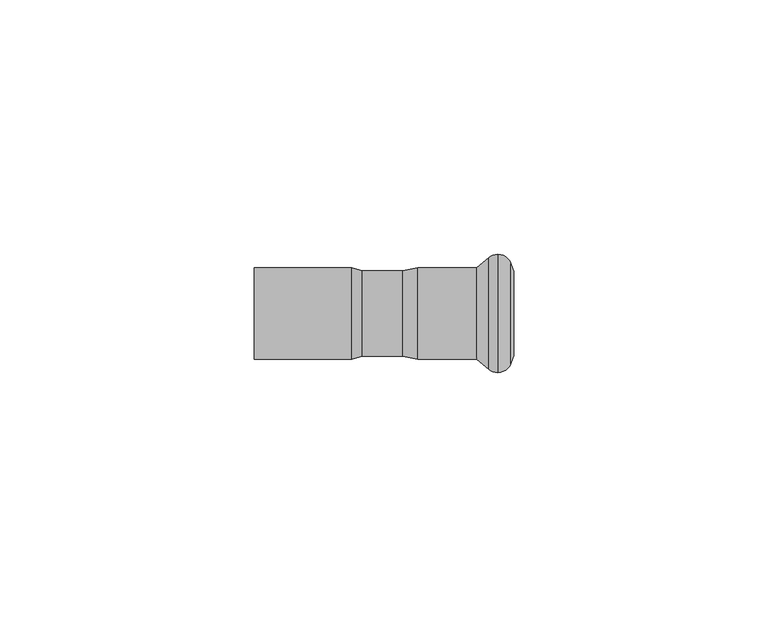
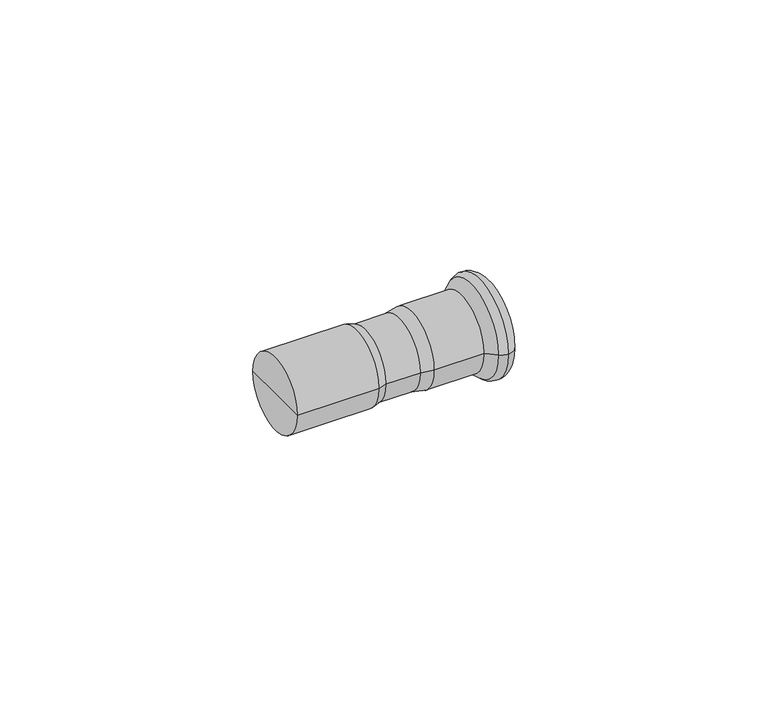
"""IFC4 building model written with IfcOpenShell, lengths in millimetres: pipe fitting geometry, KAN-therm Inox redukcja nyplowa : KAN-therm Inox redukcja nyplowa."""

from ifc_helpers import new_model, si_unit, point, frame, origin, place, context, project, spatial, polyline, circle_curve, ellipse_curve, trimmed, source, transform, mapped, element, save
from ifc_brep_helpers import plane_surface, cylinder_surface, revolved_surface, advanced_brep


def pipe_fitting_02114148(model_context):
    return source(origin(), model_context, "Body", "AdvancedBrep", [
        advanced_brep(
        [(46.0922627, -10.9370225, 0.0), (46.0922627, 10.9370225, 0.0), (47.8921278, 11.625, 0.0), (47.8921278, -11.625, 0.0), (43.7838092, -9.0, 0.0), (43.7838092, 9.0, 0.0), (32.1180407, -9.0, 0.0), (32.1180407, 9.0, 0.0), (29.2, -8.4, 0.0), (29.2, 8.4, 0.0), (21.2, -8.4, 0.0), (21.2, 8.4, 0.0), (51.0, -8.2880302, 0.0), (51.0, 8.2880302, 0.0), (51.0, 0.0, 0.0), (50.432052, -9.8484544, 0.0), (50.432052, 9.8484544, 0.0), (0.0, 0.0, 0.0), (0.0, 9.0, 0.0), (0.0, -9.0, 0.0), (19.2, -9.0, 0.0), (19.2, 9.0, 0.0)],
        [
            (0, 1, circle_curve(frame((46.0922627, 0.0, 0.0), z_axis=(1.0, 0.0, 0.0), x_axis=(0.0, 1.0, 0.0)), 10.9370225)),
            (1, 2, circle_curve(frame((47.8935049, 8.9230333, 0.0), z_axis=(0.0, 0.0, -1.0), x_axis=(1.0, 0.0, 0.0)), 2.701967)),
            (2, 3, circle_curve(frame((47.8921278, 0.0, 0.0), z_axis=(-1.0, 0.0, 0.0), x_axis=(0.0, 1.0, 0.0)), 11.625)),
            (3, 0, circle_curve(frame((47.8935049, -8.9230333, 0.0), z_axis=(0.0, 0.0, -1.0), x_axis=(1.0, 0.0, 0.0)), 2.701967)),
            (1, 0, circle_curve(frame((46.0922627, 0.0, 0.0), z_axis=(1.0, 0.0, 0.0), x_axis=(0.0, 1.0, 0.0)), 10.9370225)),
            (3, 2, circle_curve(frame((47.8921278, 0.0, 0.0), z_axis=(-1.0, 0.0, 0.0), x_axis=(0.0, 1.0, 0.0)), 11.625)),
            (4, 5, circle_curve(frame((43.7838092, 0.0, 0.0), z_axis=(1.0, 0.0, 0.0), x_axis=(0.0, 1.0, 0.0)), 9.0)),
            (5, 1),
            (0, 4),
            (5, 4, circle_curve(frame((43.7838092, 0.0, 0.0), z_axis=(1.0, 0.0, 0.0), x_axis=(0.0, 1.0, 0.0)), 9.0)),
            (6, 7, circle_curve(frame((32.1180407, 0.0, 0.0), z_axis=(1.0, 0.0, 0.0), x_axis=(0.0, 1.0, 0.0)), 9.0)),
            (7, 5),
            (4, 6),
            (7, 6, circle_curve(frame((32.1180407, 0.0, 0.0), z_axis=(1.0, 0.0, 0.0), x_axis=(0.0, 1.0, 0.0)), 9.0)),
            (8, 9, circle_curve(frame((29.2, 0.0, 0.0), z_axis=(1.0, 0.0, 0.0), x_axis=(0.0, 1.0, 0.0)), 8.4)),
            (9, 7),
            (6, 8),
            (9, 8, circle_curve(frame((29.2, 0.0, 0.0), z_axis=(1.0, 0.0, 0.0), x_axis=(0.0, 1.0, 0.0)), 8.4)),
            (10, 11, circle_curve(frame((21.2, 0.0, 0.0), z_axis=(1.0, 0.0, 0.0), x_axis=(0.0, 1.0, 0.0)), 8.4)),
            (11, 9),
            (8, 10),
            (11, 10, circle_curve(frame((21.2, 0.0, 0.0), z_axis=(1.0, 0.0, 0.0), x_axis=(0.0, 1.0, 0.0)), 8.4)),
            (12, 13, circle_curve(frame((51.0, 0.0, 0.0), z_axis=(1.0, 0.0, 0.0), x_axis=(0.0, 1.0, 0.0)), 8.2880302)),
            (13, 14),
            (14, 12),
            (13, 12, circle_curve(frame((51.0, 0.0, 0.0), z_axis=(1.0, 0.0, 0.0), x_axis=(0.0, 1.0, 0.0)), 8.2880302)),
            (15, 16, circle_curve(frame((50.432052, 0.0, 0.0), z_axis=(1.0, 0.0, 0.0), x_axis=(0.0, 1.0, 0.0)), 9.8484544)),
            (16, 13),
            (12, 15),
            (16, 15, circle_curve(frame((50.432052, 0.0, 0.0), z_axis=(1.0, 0.0, 0.0), x_axis=(0.0, 1.0, 0.0)), 9.8484544)),
            (2, 16, circle_curve(frame((47.89488, 8.9249993, 0.0), z_axis=(0.0, 0.0, -1.0), x_axis=(1.0, 0.0, 0.0)), 2.7000021)),
            (15, 3, circle_curve(frame((47.89488, -8.9249993, 0.0), z_axis=(0.0, 0.0, -1.0), x_axis=(1.0, 0.0, 0.0)), 2.7000021)),
            (17, 18),
            (18, 19, circle_curve(frame((0.0, 0.0, 0.0), z_axis=(-1.0, 0.0, 0.0), x_axis=(0.0, 1.0, 0.0)), 9.0)),
            (19, 17),
            (19, 18, circle_curve(frame((0.0, 0.0, 0.0), z_axis=(-1.0, 0.0, 0.0), x_axis=(0.0, 1.0, 0.0)), 9.0)),
            (20, 21, circle_curve(frame((19.2, 0.0, 0.0), z_axis=(1.0, 0.0, 0.0), x_axis=(0.0, 1.0, 0.0)), 9.0)),
            (21, 11),
            (10, 20),
            (21, 20, circle_curve(frame((19.2, 0.0, 0.0), z_axis=(1.0, 0.0, 0.0), x_axis=(0.0, 1.0, 0.0)), 9.0)),
            (18, 21),
            (20, 19),
        ],
        [
            revolved_surface(trimmed(ellipse_curve(frame((47.8935049, 8.9230333, 0.0), z_axis=(0.0, 0.0, 1.0), x_axis=(1.0, 0.0, 0.0)), 2.701967, 2.701967), [point((47.8921278, 11.625, 0.0))], [point((46.0922627, 10.9370225, 0.0))], True, "CARTESIAN"), (1364.742668, 0.0, 0.0), (-1.0, 0.0, 0.0)),
            revolved_surface(polyline([(46.0922627, 10.9370225, 0.0), (43.7838092, 9.0, 0.0)]), (1364.742668, 0.0, 0.0), (-1.0, 0.0, 0.0)),
            cylinder_surface(frame((1364.742668, 0.0, 0.0), z_axis=(-1.0, 0.0, 0.0), x_axis=(0.0, 1.0, 0.0)), 9.0),
            revolved_surface(polyline([(32.1180407, 9.0, 0.0), (29.2, 8.4, 0.0)]), (1364.742668, 0.0, 0.0), (-1.0, 0.0, 0.0)),
            cylinder_surface(frame((1364.742668, 0.0, 0.0), z_axis=(-1.0, 0.0, 0.0), x_axis=(0.0, 1.0, 0.0)), 8.4),
            plane_surface(frame((51.0, 0.0, 0.0), z_axis=(1.0, 0.0, 0.0), x_axis=(0.0, 1.0, 0.0))),
            revolved_surface(polyline([(51.0, 8.2880302, 0.0), (50.432052, 9.8484544, 0.0)]), (1364.742668, 0.0, 0.0), (-1.0, 0.0, 0.0)),
            revolved_surface(trimmed(ellipse_curve(frame((47.89488, 8.9249993, 0.0), z_axis=(0.0, 0.0, 1.0), x_axis=(1.0, 0.0, 0.0)), 2.7000021, 2.7000021), [point((50.432052, 9.8484544, 0.0))], [point((47.8921278, 11.625, 0.0))], True, "CARTESIAN"), (1364.742668, 0.0, 0.0), (-1.0, 0.0, 0.0)),
            plane_surface(frame((0.0, 0.0, 0.0), z_axis=(-1.0, 0.0, 0.0), x_axis=(0.0, 1.0, 0.0))),
            revolved_surface(polyline([(21.2, 8.4, 0.0), (19.2, 9.0, 0.0)]), (1364.742668, 0.0, 0.0), (-1.0, 0.0, 0.0)),
        ],
        [
            (0, [[1, 2, 3, 4]]),
            (0, [[5, -4, 6, -2]]),
            (1, [[7, 8, -1, 9]]),
            (1, [[10, -9, -5, -8]]),
            (2, [[11, 12, -7, 13]]),
            (2, [[14, -13, -10, -12]]),
            (3, [[15, 16, -11, 17]]),
            (3, [[18, -17, -14, -16]]),
            (4, [[19, 20, -15, 21]]),
            (4, [[22, -21, -18, -20]]),
            (5, [[23, 24, 25]]),
            (5, [[26, -25, -24]]),
            (6, [[27, 28, -23, 29]]),
            (6, [[30, -29, -26, -28]]),
            (7, [[-3, 31, -27, 32]]),
            (7, [[-6, -32, -30, -31]]),
            (8, [[33, 34, 35]]),
            (8, [[-35, 36, -33]]),
            (9, [[37, 38, -19, 39]]),
            (9, [[40, -39, -22, -38]]),
            (2, [[-34, 41, -37, 42]]),
            (2, [[-36, -42, -40, -41]]),
        ],
    ),
    ])


if __name__ == "__main__":
    model = new_model("IFC4")
    model_context = context("Model", 3, world=origin())
    ifc_project = project(units=[si_unit("LENGTHUNIT", "METRE", prefix="MILLI")], contexts=[model_context])
    site = spatial("IfcSite", under=ifc_project)
    building = spatial("IfcBuilding", under=site)
    placement = place(None, origin())
    pipe_fitting_shape = pipe_fitting_02114148(model_context)
    element("IfcPipeFitting", 1, ObjectType="KAN-therm Inox redukcja nyplowa : KAN-therm Inox redukcja nyplowa", at=placement, inside=building, context=model_context, shape_type="MappedRepresentation", body=[
        mapped(pipe_fitting_shape, transform((0.0, 0.0, 0.0), x_axis=(1.0, 0.0, 0.0), y_axis=(0.0, 1.0, 0.0), z_axis=(0.0, 0.0, 1.0))),
    ])
    save(model, "model.ifc")
